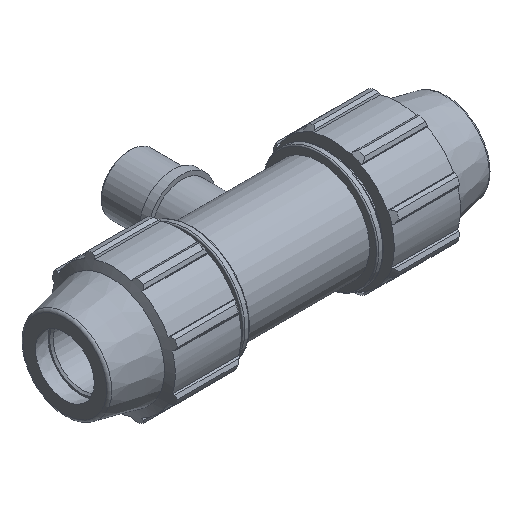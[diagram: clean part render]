
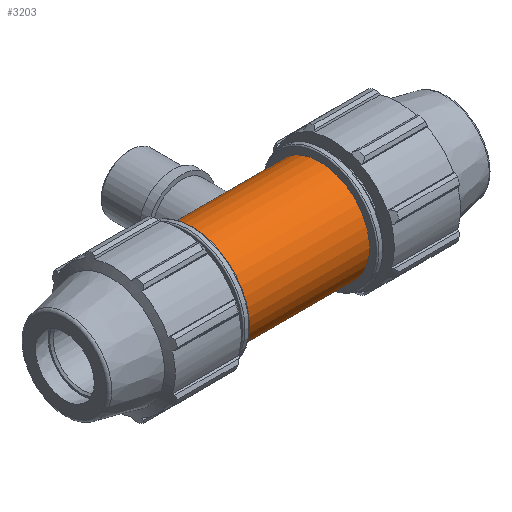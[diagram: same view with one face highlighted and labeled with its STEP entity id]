
A CAD part, isometric view. The second image highlights one B-rep face of the part: STEP entity #3203.
In plain terms, the highlighted cylindrical face has radius 18.002 mm (diameter 36.004 mm), a full revolution.
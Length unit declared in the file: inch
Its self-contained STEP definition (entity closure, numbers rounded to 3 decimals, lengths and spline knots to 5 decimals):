
#34=FACE_BOUND('',#696,.T.);
#250=CIRCLE('',#3354,0.70875);
#251=CIRCLE('',#3355,0.70875);
#328=CIRCLE('',#3506,0.70875);
#329=CIRCLE('',#3507,0.70875);
#524=FACE_OUTER_BOUND('',#695,.T.);
#695=EDGE_LOOP('',(#2779,#2780,#2781,#2782,#2783,#2784));
#696=EDGE_LOOP('',(#2785,#2786));
#920=LINE('',#5521,#1136);
#1136=VECTOR('',#4377,0.70875);
#1146=B_SPLINE_CURVE_WITH_KNOTS('',3,(#4447,#4448,#4449,#4450,#4451,#4452,
#4453,#4454,#4455,#4456),.UNSPECIFIED.,.F.,.F.,(4,2,2,2,4),(0.,0.28,
0.55999,0.83968,1.11937),.UNSPECIFIED.);
#1147=B_SPLINE_CURVE_WITH_KNOTS('',3,(#4457,#4458,#4459,#4460,#4461,#4462,
#4463,#4464,#4465,#4466,#4467,#4468,#4469,#4470,#4471,#4472,#4473,#4474,
#4475,#4476,#4477,#4478,#4479,#4480,#4481,#4482),.UNSPECIFIED.,.F.,.F.,
(4,2,2,2,2,2,2,2,2,2,2,2,4),(1.11937,1.39906,1.67875,
1.95874,2.23874,2.51874,2.79873,3.07842,
3.35811,3.6378,3.91749,4.19748,4.47748),
 .UNSPECIFIED.);
#1155=VERTEX_POINT('',#4445);
#1156=VERTEX_POINT('',#4446);
#1295=VERTEX_POINT('',#4968);
#1296=VERTEX_POINT('',#4969);
#1442=VERTEX_POINT('',#5475);
#1443=VERTEX_POINT('',#5476);
#1473=EDGE_CURVE('',#1155,#1156,#1146,.T.);
#1474=EDGE_CURVE('',#1156,#1155,#1147,.T.);
#1667=EDGE_CURVE('',#1295,#1296,#250,.T.);
#1668=EDGE_CURVE('',#1296,#1295,#251,.T.);
#1889=EDGE_CURVE('',#1442,#1443,#328,.T.);
#1890=EDGE_CURVE('',#1443,#1442,#329,.T.);
#1903=EDGE_CURVE('',#1443,#1296,#920,.T.);
#2779=ORIENTED_EDGE('',*,*,#1889,.F.);
#2780=ORIENTED_EDGE('',*,*,#1890,.F.);
#2781=ORIENTED_EDGE('',*,*,#1903,.T.);
#2782=ORIENTED_EDGE('',*,*,#1668,.T.);
#2783=ORIENTED_EDGE('',*,*,#1667,.T.);
#2784=ORIENTED_EDGE('',*,*,#1903,.F.);
#2785=ORIENTED_EDGE('',*,*,#1473,.T.);
#2786=ORIENTED_EDGE('',*,*,#1474,.T.);
#2892=CYLINDRICAL_SURFACE('',#3538,0.70875);
#3203=ADVANCED_FACE('',(#524,#34),#2892,.T.);
#3354=AXIS2_PLACEMENT_3D('',#4970,#3893,#3894);
#3355=AXIS2_PLACEMENT_3D('',#4971,#3895,#3896);
#3506=AXIS2_PLACEMENT_3D('',#5477,#4309,#4310);
#3507=AXIS2_PLACEMENT_3D('',#5478,#4311,#4312);
#3538=AXIS2_PLACEMENT_3D('',#5520,#4375,#4376);
#3893=DIRECTION('center_axis',(1.,0.,0.));
#3894=DIRECTION('ref_axis',(0.,0.,-1.));
#3895=DIRECTION('center_axis',(1.,0.,0.));
#3896=DIRECTION('ref_axis',(0.,0.,-1.));
#4309=DIRECTION('center_axis',(1.,0.,0.));
#4310=DIRECTION('ref_axis',(0.,0.,-1.));
#4311=DIRECTION('center_axis',(1.,0.,0.));
#4312=DIRECTION('ref_axis',(0.,0.,-1.));
#4375=DIRECTION('center_axis',(1.,0.,0.));
#4376=DIRECTION('ref_axis',(0.,1.,0.));
#4377=DIRECTION('',(-1.,0.,0.));
#4445=CARTESIAN_POINT('',(0.,0.64726,-0.28875));
#4446=CARTESIAN_POINT('',(0.28875,0.70875,0.));
#4447=CARTESIAN_POINT('Ctrl Pts',(0.,0.64726,
-0.28875));
#4448=CARTESIAN_POINT('Ctrl Pts',(0.03674,0.64726,
-0.28875));
#4449=CARTESIAN_POINT('Ctrl Pts',(0.0756,0.65072,
-0.28132));
#4450=CARTESIAN_POINT('Ctrl Pts',(0.14658,0.66273,-0.25173));
#4451=CARTESIAN_POINT('Ctrl Pts',(0.17876,0.67106,-0.22959));
#4452=CARTESIAN_POINT('Ctrl Pts',(0.22956,0.68634,-0.17879));
#4453=CARTESIAN_POINT('Ctrl Pts',(0.25172,0.69435,-0.1466));
#4454=CARTESIAN_POINT('Ctrl Pts',(0.28133,0.70563,-0.07557));
#4455=CARTESIAN_POINT('Ctrl Pts',(0.28875,0.70875,-0.0367));
#4456=CARTESIAN_POINT('Ctrl Pts',(0.28875,0.70875,0.));
#4457=CARTESIAN_POINT('Ctrl Pts',(0.28875,0.70875,0.));
#4458=CARTESIAN_POINT('Ctrl Pts',(0.28875,0.70875,0.0367));
#4459=CARTESIAN_POINT('Ctrl Pts',(0.28133,0.70563,0.07557));
#4460=CARTESIAN_POINT('Ctrl Pts',(0.25172,0.69435,0.1466));
#4461=CARTESIAN_POINT('Ctrl Pts',(0.22956,0.68634,0.17879));
#4462=CARTESIAN_POINT('Ctrl Pts',(0.17876,0.67106,0.22959));
#4463=CARTESIAN_POINT('Ctrl Pts',(0.14658,0.66273,0.25173));
#4464=CARTESIAN_POINT('Ctrl Pts',(0.0756,0.65072,
0.28132));
#4465=CARTESIAN_POINT('Ctrl Pts',(0.03674,0.64726,
0.28875));
#4466=CARTESIAN_POINT('Ctrl Pts',(-0.03674,0.64726,
0.28875));
#4467=CARTESIAN_POINT('Ctrl Pts',(-0.0756,0.65072,
0.28132));
#4468=CARTESIAN_POINT('Ctrl Pts',(-0.14658,0.66273,
0.25173));
#4469=CARTESIAN_POINT('Ctrl Pts',(-0.17876,0.67106,
0.22959));
#4470=CARTESIAN_POINT('Ctrl Pts',(-0.22956,0.68634,
0.17879));
#4471=CARTESIAN_POINT('Ctrl Pts',(-0.25172,0.69435,
0.1466));
#4472=CARTESIAN_POINT('Ctrl Pts',(-0.28133,0.70563,
0.07557));
#4473=CARTESIAN_POINT('Ctrl Pts',(-0.28875,0.70875,0.0367));
#4474=CARTESIAN_POINT('Ctrl Pts',(-0.28875,0.70875,-0.0367));
#4475=CARTESIAN_POINT('Ctrl Pts',(-0.28133,0.70563,
-0.07557));
#4476=CARTESIAN_POINT('Ctrl Pts',(-0.25172,0.69435,-0.1466));
#4477=CARTESIAN_POINT('Ctrl Pts',(-0.22956,0.68634,
-0.17879));
#4478=CARTESIAN_POINT('Ctrl Pts',(-0.17876,0.67106,
-0.22959));
#4479=CARTESIAN_POINT('Ctrl Pts',(-0.14658,0.66273,
-0.25173));
#4480=CARTESIAN_POINT('Ctrl Pts',(-0.0756,0.65072,
-0.28132));
#4481=CARTESIAN_POINT('Ctrl Pts',(-0.03674,0.64726,
-0.28875));
#4482=CARTESIAN_POINT('Ctrl Pts',(0.,0.64726,
-0.28875));
#4968=CARTESIAN_POINT('',(-0.905,0.70875,0.));
#4969=CARTESIAN_POINT('',(-0.905,-0.70875,0.));
#4970=CARTESIAN_POINT('Origin',(-0.905,0.,0.));
#4971=CARTESIAN_POINT('Origin',(-0.905,0.,0.));
#5475=CARTESIAN_POINT('',(0.905,0.70875,0.));
#5476=CARTESIAN_POINT('',(0.905,-0.70875,0.));
#5477=CARTESIAN_POINT('Origin',(0.905,0.,0.));
#5478=CARTESIAN_POINT('Origin',(0.905,0.,0.));
#5520=CARTESIAN_POINT('Origin',(0.4525,0.,0.));
#5521=CARTESIAN_POINT('',(0.4525,-0.70875,0.));
